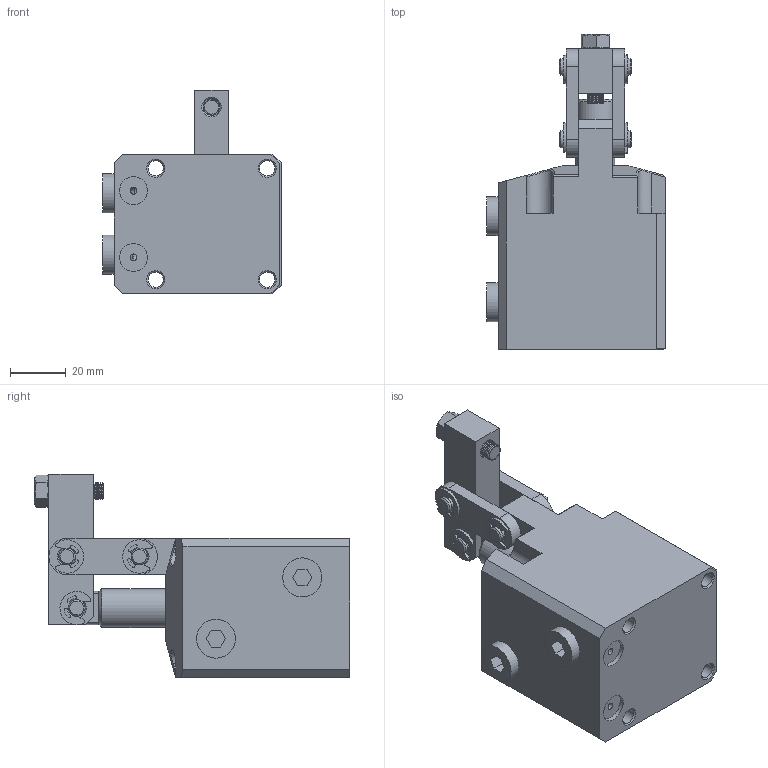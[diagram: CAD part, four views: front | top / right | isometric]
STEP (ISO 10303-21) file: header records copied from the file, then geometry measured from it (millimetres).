
FILE_DESCRIPTION(/* description */ ('STEP AP214'),/* implementation_level */ '2;1');
FILE_NAME(/* name */ 'D:\Vault_2016\Projekty\Clamptek\Hydraulic\CBLU\CBLU-30\STEP\CBLU-30GR.stp',/* time_stamp */ '2021-05-06T12:11:13+02:00',/* author */ ('user'),/* organization */ (''),/* preprocessor_version */ 'ST-DEVELOPER v18.1',/* originating_system */ 'Autodesk Inventor 2021',/* authorisation */ '');
FILE_SCHEMA (('AUTOMOTIVE_DESIGN { 1 0 10303 214 3 1 1 }'));
Length unit declared in the file: millimetre
Products named in the file (11): CBLU-30GR; ±¾ÌåCR_1_1; 30Á¬¸Ë; hex nuts, style 1-grades ab gb_GB_FASTENER_NUT_SNAB1 M6-N_1; hexagon socket head cap screws gb_GB_FASTENER_SCREWS_HSHCS M6X25-S_1; ³¤ÏúÖá_1; 30¶ÌÏúÖá; 30»îÈû¸Ë_2_1; 30Ñ¹°å; e rings gb_GB_CONNECTING_PIECE_RINGS_HR 6_1; ÄÚÁù½Ç¶ÂÍ·×
îÐÂ_1
Assembly tree (18 placements, depth 2):
  CBLU-30GR
    ±¾ÌåCR_1_1
    30Á¬¸Ë  x2
    hex nuts, style 1-grades ab gb_GB_FASTENER_NUT_SNAB1 M6-N_1
    hexagon socket head cap screws gb_GB_FASTENER_SCREWS_HSHCS M6X25-S_1
    ³¤ÏúÖá_1  x2
    e rings gb_GB_CONNECTING_PIECE_RINGS_HR 6_1  x6
    ÄÚÁù½Ç¶ÂÍ·×
îÐÂ_1  x2
    30¶ÌÏúÖá
    30»îÈû¸Ë_2_1
    30Ñ¹°å
Bounding box: 64 x 113.2 x 73 mm (x, y, z)
Volume: 187334.7 mm3; surface area: 47415.9 mm2
Topology: 19 solids, 19 shells, 479 faces, 1200 edges, 780 vertices
Faces by surface type: plane 179, cylinder 167, cone 123, bspline 10
Full cylindrical faces by diameter (mm): 2 x2, 2.5 x1, 4.9 x3, 4.917 x1, 5 x3, 5.5 x4, 6 x56, 8 x2, 9 x2, 10 x2, 14 x4, 30 x2, 36 x1, 37 x1
Entity records: 11778 total; most frequent: CARTESIAN_POINT 2798, DIRECTION 1911, ORIENTED_EDGE 1706, EDGE_CURVE 853, AXIS2_PLACEMENT_3D 744, VERTEX_POINT 550, LINE 423, VECTOR 423
